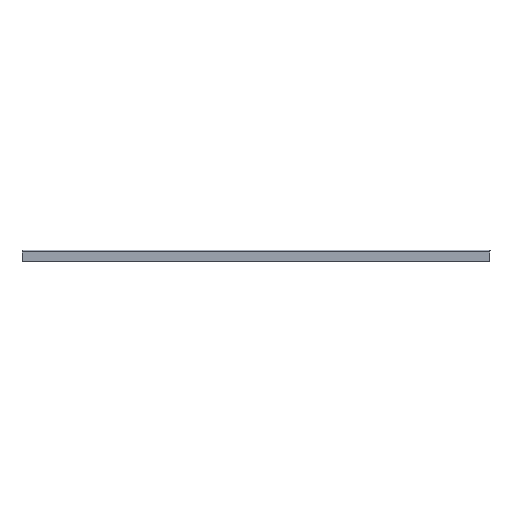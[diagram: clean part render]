
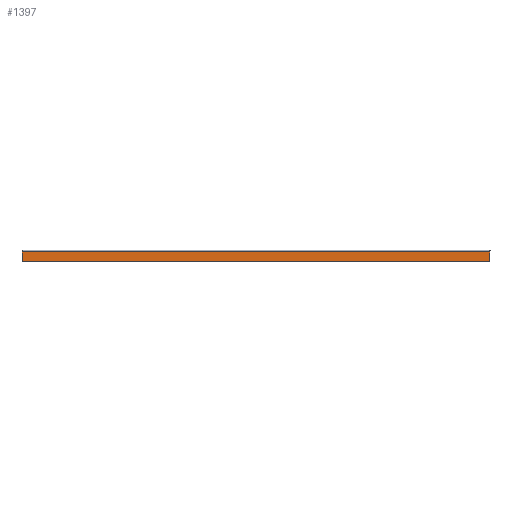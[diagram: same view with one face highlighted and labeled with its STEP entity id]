
A CAD part, front view. The second image highlights one B-rep face of the part: STEP entity #1397.
In plain terms, the highlighted planar face has unit normal (0, -1, 0).
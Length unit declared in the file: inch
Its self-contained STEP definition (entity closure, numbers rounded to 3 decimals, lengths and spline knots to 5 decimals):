
#15 = DIRECTION ( 'NONE',  ( 1., 0., 0. ) ) ;
#25 = LINE ( 'NONE', #28, #54 ) ;
#28 = CARTESIAN_POINT ( 'NONE',  ( 14.8622, -5.31496, -0.06 ) ) ;
#39 = DIRECTION ( 'NONE',  ( 0., 0., 1. ) ) ;
#40 = DIRECTION ( 'NONE',  ( 0., 1., 0. ) ) ;
#41 = CARTESIAN_POINT ( 'NONE',  ( -14.8622, -5.31496, 0. ) ) ;
#44 = FACE_OUTER_BOUND ( 'NONE', #1398, .T. ) ;
#48 = AXIS2_PLACEMENT_3D ( 'NONE', #41, #40, #39 ) ;
#49 = PLANE ( 'NONE',  #48 ) ;
#54 = VECTOR ( 'NONE', #15, 39.37008 ) ;
#967 = DIRECTION ( 'NONE',  ( 0., 0., -1. ) ) ;
#968 = VECTOR ( 'NONE', #967, 39.37008 ) ;
#969 = CARTESIAN_POINT ( 'NONE',  ( -14.8622, -5.31496, 0. ) ) ;
#970 = LINE ( 'NONE', #969, #968 ) ;
#994 = CARTESIAN_POINT ( 'NONE',  ( -14.8622, -5.31496, -0.69303 ) ) ;
#1250 = ORIENTED_EDGE ( 'NONE', *, *, #1341, .T. ) ;
#1261 = VERTEX_POINT ( 'NONE', #1370 ) ;
#1268 = VERTEX_POINT ( 'NONE', #1356 ) ;
#1334 = EDGE_CURVE ( 'NONE', #1931, #1268, #1379, .T. ) ;
#1341 = EDGE_CURVE ( 'NONE', #1268, #1342, #1408, .T. ) ;
#1342 = VERTEX_POINT ( 'NONE', #1404 ) ;
#1356 = CARTESIAN_POINT ( 'NONE',  ( 14.8622, -5.31496, -0.69303 ) ) ;
#1363 = EDGE_CURVE ( 'NONE', #1261, #1342, #25, .T. ) ;
#1370 = CARTESIAN_POINT ( 'NONE',  ( -14.8622, -5.31496, -0.06 ) ) ;
#1376 = DIRECTION ( 'NONE',  ( 1., 0., 0. ) ) ;
#1377 = VECTOR ( 'NONE', #1376, 39.37008 ) ;
#1378 = CARTESIAN_POINT ( 'NONE',  ( -14.8622, -5.31496, -0.69303 ) ) ;
#1379 = LINE ( 'NONE', #1378, #1377 ) ;
#1397 = ADVANCED_FACE ( 'NONE', ( #44 ), #49, .F. ) ;
#1398 = EDGE_LOOP ( 'NONE', ( #1399, #1400, #1878, #1250 ) ) ;
#1399 = ORIENTED_EDGE ( 'NONE', *, *, #1363, .F. ) ;
#1400 = ORIENTED_EDGE ( 'NONE', *, *, #1933, .T. ) ;
#1404 = CARTESIAN_POINT ( 'NONE',  ( 14.8622, -5.31496, -0.06 ) ) ;
#1405 = DIRECTION ( 'NONE',  ( 0., 0., 1. ) ) ;
#1406 = VECTOR ( 'NONE', #1405, 39.37008 ) ;
#1407 = CARTESIAN_POINT ( 'NONE',  ( 14.8622, -5.31496, 0. ) ) ;
#1408 = LINE ( 'NONE', #1407, #1406 ) ;
#1878 = ORIENTED_EDGE ( 'NONE', *, *, #1334, .T. ) ;
#1931 = VERTEX_POINT ( 'NONE', #994 ) ;
#1933 = EDGE_CURVE ( 'NONE', #1261, #1931, #970, .T. ) ;
